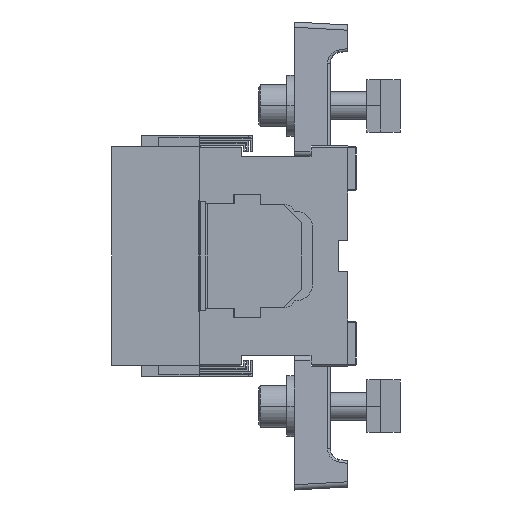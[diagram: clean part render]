
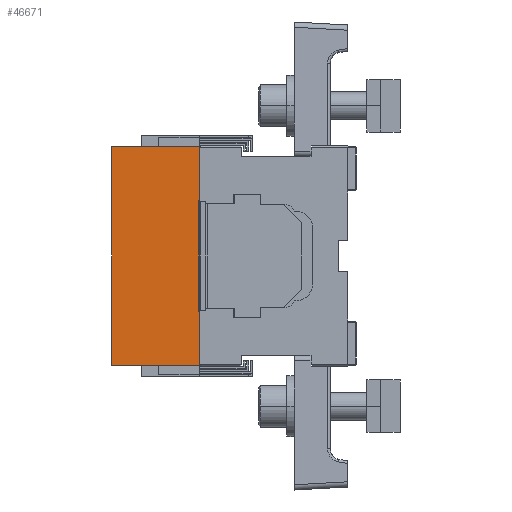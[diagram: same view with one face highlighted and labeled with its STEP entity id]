
A CAD part, left-side view. The second image highlights one B-rep face of the part: STEP entity #46671.
In plain terms, the highlighted planar face has unit normal (-1, 0, 0) as drawn and (0, 0, -1) by its records, which use the part's own axes.
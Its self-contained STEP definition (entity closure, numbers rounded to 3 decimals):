
#250 = EDGE_CURVE ( 'NONE', #49683, #17273, #33596, .T. ) ;
#1772 = CARTESIAN_POINT ( 'NONE',  ( 62.5, 50., -84. ) ) ;
#2314 = CARTESIAN_POINT ( 'NONE',  ( 62.5, 0., -84. ) ) ;
#2475 = CARTESIAN_POINT ( 'NONE',  ( 31.5, 50., -84. ) ) ;
#2511 = DIRECTION ( 'NONE',  ( -1., 0., 0. ) ) ;
#3570 = VECTOR ( 'NONE', #2511, 1000. ) ;
#3613 = ORIENTED_EDGE ( 'NONE', *, *, #21102, .F. ) ;
#5247 = CARTESIAN_POINT ( 'NONE',  ( -62.5, 0.3, -84. ) ) ;
#8678 = ORIENTED_EDGE ( 'NONE', *, *, #57088, .F. ) ;
#9511 = VECTOR ( 'NONE', #28102, 1000. ) ;
#9689 = EDGE_CURVE ( 'NONE', #17213, #29301, #53085, .T. ) ;
#10077 = LINE ( 'NONE', #31704, #29141 ) ;
#11298 = DIRECTION ( 'NONE',  ( 0., -1., 0. ) ) ;
#14305 = ORIENTED_EDGE ( 'NONE', *, *, #59409, .F. ) ;
#16878 = VERTEX_POINT ( 'NONE', #23803 ) ;
#17213 = VERTEX_POINT ( 'NONE', #66984 ) ;
#17273 = VERTEX_POINT ( 'NONE', #61878 ) ;
#17720 = LINE ( 'NONE', #5247, #29486 ) ;
#18575 = FACE_OUTER_BOUND ( 'NONE', #29632, .T. ) ;
#18924 = CARTESIAN_POINT ( 'NONE',  ( -62.5, 0., -84. ) ) ;
#21102 = EDGE_CURVE ( 'NONE', #29301, #23691, #28476, .T. ) ;
#21571 = CARTESIAN_POINT ( 'NONE',  ( -62.5, 0., -84. ) ) ;
#22143 = DIRECTION ( 'NONE',  ( 1., 0., 0. ) ) ;
#23691 = VERTEX_POINT ( 'NONE', #2314 ) ;
#23803 = CARTESIAN_POINT ( 'NONE',  ( -31.5, 0.3, -84. ) ) ;
#26943 = DIRECTION ( 'NONE',  ( 0., 1., 0. ) ) ;
#28102 = DIRECTION ( 'NONE',  ( 1., 0., 0. ) ) ;
#28476 = LINE ( 'NONE', #67300, #9511 ) ;
#29141 = VECTOR ( 'NONE', #26943, 1000. ) ;
#29301 = VERTEX_POINT ( 'NONE', #38713 ) ;
#29322 = LINE ( 'NONE', #58252, #3570 ) ;
#29486 = VECTOR ( 'NONE', #22143, 1000. ) ;
#29632 = EDGE_LOOP ( 'NONE', ( #49350, #65672, #8678, #14305, #49076, #3613, #69293, #59020 ) ) ;
#31704 = CARTESIAN_POINT ( 'NONE',  ( 62.5, 0., -84. ) ) ;
#32146 = CARTESIAN_POINT ( 'NONE',  ( -62.5, 0., -84. ) ) ;
#32606 = VECTOR ( 'NONE', #40998, 1000. ) ;
#33596 = LINE ( 'NONE', #18924, #39869 ) ;
#35430 = DIRECTION ( 'NONE',  ( 0., 0., -1. ) ) ;
#36494 = LINE ( 'NONE', #48561, #68875 ) ;
#37242 = VERTEX_POINT ( 'NONE', #1772 ) ;
#38713 = CARTESIAN_POINT ( 'NONE',  ( 31.5, 0., -84. ) ) ;
#39869 = VECTOR ( 'NONE', #46033, 1000. ) ;
#40998 = DIRECTION ( 'NONE',  ( 0., -1., 0. ) ) ;
#41298 = CARTESIAN_POINT ( 'NONE',  ( -62.5, 50., -84. ) ) ;
#43067 = VECTOR ( 'NONE', #11298, 1000. ) ;
#45411 = EDGE_CURVE ( 'NONE', #23691, #37242, #10077, .T. ) ;
#46033 = DIRECTION ( 'NONE',  ( 1., 0., 0. ) ) ;
#46671 = ADVANCED_FACE ( 'NONE', ( #18575 ), #63310, .T. ) ;
#46789 = DIRECTION ( 'NONE',  ( -1., 0., 0. ) ) ;
#48561 = CARTESIAN_POINT ( 'NONE',  ( -31.5, 50., -84. ) ) ;
#49076 = ORIENTED_EDGE ( 'NONE', *, *, #45411, .F. ) ;
#49350 = ORIENTED_EDGE ( 'NONE', *, *, #57437, .F. ) ;
#49683 = VERTEX_POINT ( 'NONE', #32146 ) ;
#53085 = LINE ( 'NONE', #2475, #32606 ) ;
#57088 = EDGE_CURVE ( 'NONE', #72378, #49683, #71784, .T. ) ;
#57437 = EDGE_CURVE ( 'NONE', #17273, #16878, #36494, .T. ) ;
#58252 = CARTESIAN_POINT ( 'NONE',  ( -62.5, 50., -84. ) ) ;
#59020 = ORIENTED_EDGE ( 'NONE', *, *, #60985, .F. ) ;
#59409 = EDGE_CURVE ( 'NONE', #37242, #72378, #29322, .T. ) ;
#60985 = EDGE_CURVE ( 'NONE', #16878, #17213, #17720, .T. ) ;
#61878 = CARTESIAN_POINT ( 'NONE',  ( -31.5, 0., -84. ) ) ;
#63310 = PLANE ( 'NONE',  #64391 ) ;
#64391 = AXIS2_PLACEMENT_3D ( 'NONE', #41298, #35430, #46789 ) ;
#65554 = CARTESIAN_POINT ( 'NONE',  ( -62.5, 50., -84. ) ) ;
#65672 = ORIENTED_EDGE ( 'NONE', *, *, #250, .F. ) ;
#66984 = CARTESIAN_POINT ( 'NONE',  ( 31.5, 0.3, -84. ) ) ;
#67300 = CARTESIAN_POINT ( 'NONE',  ( -62.5, 0., -84. ) ) ;
#68875 = VECTOR ( 'NONE', #70579, 1000. ) ;
#69293 = ORIENTED_EDGE ( 'NONE', *, *, #9689, .F. ) ;
#70579 = DIRECTION ( 'NONE',  ( 0., 1., 0. ) ) ;
#71784 = LINE ( 'NONE', #21571, #43067 ) ;
#72378 = VERTEX_POINT ( 'NONE', #65554 ) ;
